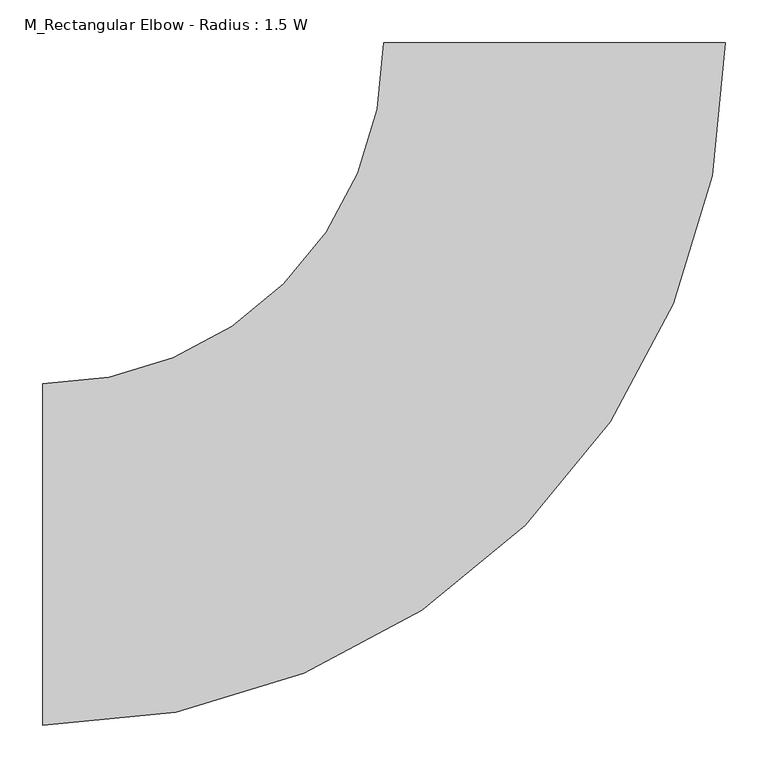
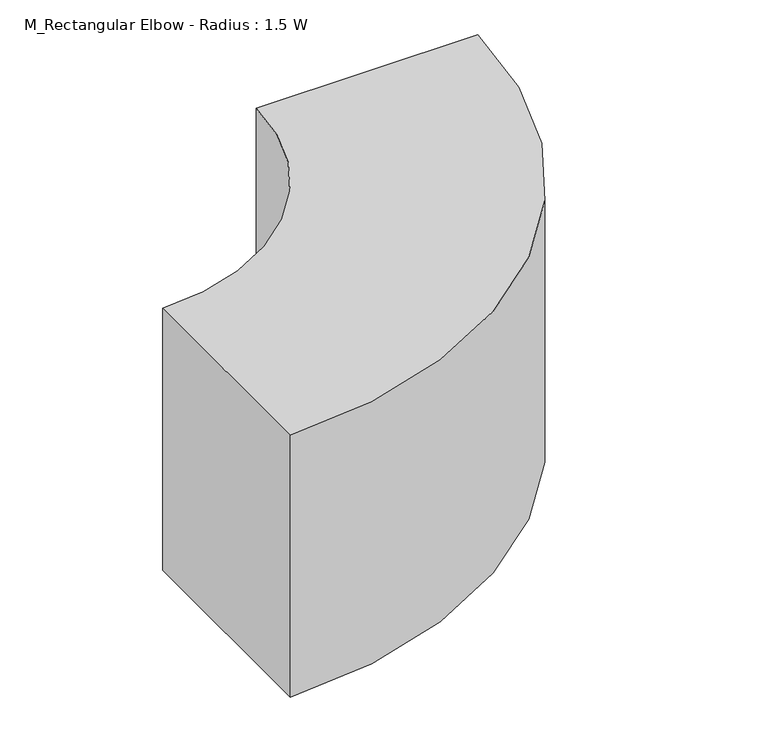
"""IFC4 building model written with IfcOpenShell, lengths in millimetres: duct fitting geometry, M_Rectangular Elbow - Radius : 1.5 W."""

import ifcopenshell
import ifcopenshell.guid

model = None  # the IFC model being written
_history = None  # IfcOwnerHistory: only IFC2X3 demands one
_inside = {}  # id of a spatial element -> (the spatial element, [elements in it])
_under = {}  # id of a project, library or spatial element -> (it, [spatial elements below it])
_declared = {}  # id of a project -> (the project, [libraries it declares])
_typed = {}  # id of a type object -> (the type object, [elements of that type])
_made_of = {}  # id of a material, layer set ... -> (it, [elements and type objects made of it])


def new_model(schema):
    """Start an empty IFC model of exactly this schema.

    Asked for "IFC4X3", IfcOpenShell would pick the latest addendum, in which some entities
    have other attributes; the version numbers below select the first issue.
    IFC2X3 requires an IfcOwnerHistory on every rooted entity: one is made here for all.
    """
    global model, _history
    if schema == "IFC4X3":
        model = ifcopenshell.file(schema_version=(4, 3, 0, 0))
    else:
        model = ifcopenshell.file(schema=schema)
    _inside.clear()
    _under.clear()
    _declared.clear()
    _typed.clear()
    _made_of.clear()
    _history = None
    if model.schema == "IFC2X3":
        org = make("IfcOrganization", Name="unknown")
        user = make(
            "IfcPersonAndOrganization",
            ThePerson=make("IfcPerson", FamilyName="unknown"),
            TheOrganization=org,
        )
        app = make(
            "IfcApplication",
            ApplicationDeveloper=org,
            Version="unknown",
            ApplicationFullName="unknown",
            ApplicationIdentifier="unknown",
        )
        _history = make(
            "IfcOwnerHistory",
            OwningUser=user,
            OwningApplication=app,
            ChangeAction="ADDED",
            CreationDate=0,
        )
    return model


def make(cls, **values):
    """One entity of the class cls with the attributes given. An attribute that is None is left unset."""
    return model.create_entity(
        cls, **{name: value for name, value in values.items() if value is not None}
    )


def rooted(cls, **values):
    """An entity with a GlobalId (a new one), such as an element, a storey or a relation."""
    return make(cls, GlobalId=ifcopenshell.guid.new(), OwnerHistory=_history, **values)


def si_unit(unit_type, name, prefix=None):
    """IfcSIUnit, for example si_unit("LENGTHUNIT", "METRE", prefix="MILLI")."""
    return make("IfcSIUnit", UnitType=unit_type, Prefix=prefix, Name=name)


def assignment(units):
    """IfcUnitAssignment: the units of a project."""
    return None if units is None else make("IfcUnitAssignment", Units=units)


def point(xyz):
    """IfcCartesianPoint."""
    return None if xyz is None else make("IfcCartesianPoint", Coordinates=xyz)


def direction(xyz):
    """IfcDirection."""
    return None if xyz is None else make("IfcDirection", DirectionRatios=xyz)


def frame(location, z_axis=None, x_axis=None):
    """IfcAxis2Placement3D, a coordinate frame: its origin and axes. An axis left out is left unset."""
    return make(
        "IfcAxis2Placement3D",
        Location=point(location),
        Axis=direction(z_axis),
        RefDirection=direction(x_axis),
    )


def frame_2d(location, x_axis=None):
    """IfcAxis2Placement2D, a coordinate frame in the plane: its origin and x axis."""
    return make(
        "IfcAxis2Placement2D", Location=point(location), RefDirection=direction(x_axis)
    )


def origin():
    """The frame at (0, 0, 0) with its axes left unset."""
    return frame((0.0, 0.0, 0.0))


def place(relative_to, where):
    """IfcLocalPlacement: puts the frame where relative to a parent placement (None: the world)."""
    return make(
        "IfcLocalPlacement", PlacementRelTo=relative_to, RelativePlacement=where
    )


def context(
    kind, dimensions, precision=None, world=None, true_north=None, identifier=None
):
    """IfcGeometricRepresentationContext, for example the 3D "Model" context."""
    return make(
        "IfcGeometricRepresentationContext",
        ContextIdentifier=identifier,
        ContextType=kind,
        CoordinateSpaceDimension=dimensions,
        Precision=precision,
        WorldCoordinateSystem=world,
        TrueNorth=true_north,
    )


def project(units=None, contexts=None):
    """IfcProject with its units and contexts."""
    return rooted(
        "IfcProject",
        Name="project",
        RepresentationContexts=contexts,
        UnitsInContext=assignment(units),
    )


def spatial(cls, under=None, at=None, **own):
    """A site, building, storey or space (cls), placed at a placement, below another one or the project."""
    s = rooted(cls, ObjectPlacement=at, **own)
    if under is not None:
        _under.setdefault(under.id(), (under, []))[1].append(s)
    return s


def polyline(points):
    """IfcPolyline through the points."""
    return make("IfcPolyline", Points=[point(p) for p in points])


def circle_curve(where, radius):
    """IfcCircle in the frame where."""
    return make("IfcCircle", Position=where, Radius=radius)


def trimmed(basis, trim1, trim2, sense, master):
    """IfcTrimmedCurve: the piece of a basis curve between two trims."""
    return make(
        "IfcTrimmedCurve",
        BasisCurve=basis,
        Trim1=trim1,
        Trim2=trim2,
        SenseAgreement=sense,
        MasterRepresentation=master,
    )


def segment(curve, same_sense, transition):
    """IfcCompositeCurveSegment."""
    return make(
        "IfcCompositeCurveSegment",
        Transition=transition,
        SameSense=same_sense,
        ParentCurve=curve,
    )


def composite_curve(segments, self_intersect=None):
    """IfcCompositeCurve: segments joined end to end."""
    return make("IfcCompositeCurve", Segments=segments, SelfIntersect=self_intersect)


def outline(outer, holes=None, kind="AREA"):
    """IfcArbitraryClosedProfileDef: a profile drawn as a closed curve; with holes, ...WithVoids."""
    if holes is None:
        return make("IfcArbitraryClosedProfileDef", ProfileType=kind, OuterCurve=outer)
    return make(
        "IfcArbitraryProfileDefWithVoids",
        ProfileType=kind,
        OuterCurve=outer,
        InnerCurves=holes,
    )


def extrude(swept, where, along, depth):
    """IfcExtrudedAreaSolid: the profile swept, set in the frame where, extruded along a direction by depth."""
    return make(
        "IfcExtrudedAreaSolid",
        SweptArea=swept,
        Position=where,
        ExtrudedDirection=direction(along),
        Depth=depth,
    )


def shape(context_of_items, identifier, shape_type, items):
    """IfcShapeRepresentation: the items that make up one representation, for example the "Body"."""
    return make(
        "IfcShapeRepresentation",
        ContextOfItems=context_of_items,
        RepresentationIdentifier=identifier,
        RepresentationType=shape_type,
        Items=items,
    )


def source(mapping_origin, context_of_items, identifier, shape_type, items):
    """IfcRepresentationMap: a shape defined once, which mapped items show again and again."""
    return make(
        "IfcRepresentationMap",
        MappingOrigin=mapping_origin,
        MappedRepresentation=shape(context_of_items, identifier, shape_type, items),
    )


def transform(
    local_origin,
    x_axis=None,
    y_axis=None,
    z_axis=None,
    scale=None,
    scale2=None,
    scale3=None,
    uniform=True,
):
    """IfcCartesianTransformationOperator3D, or its non-uniform kind. x_axis, y_axis, z_axis: its Axis1, 2, 3."""
    if uniform:
        return make(
            "IfcCartesianTransformationOperator3D",
            Axis1=direction(x_axis),
            Axis2=direction(y_axis),
            LocalOrigin=point(local_origin),
            Scale=scale,
            Axis3=direction(z_axis),
        )
    return make(
        "IfcCartesianTransformationOperator3DnonUniform",
        Axis1=direction(x_axis),
        Axis2=direction(y_axis),
        LocalOrigin=point(local_origin),
        Scale=scale,
        Axis3=direction(z_axis),
        Scale2=scale2,
        Scale3=scale3,
    )


def mapped(mapping_source, mapping_target):
    """IfcMappedItem: shows the shape of a source again, moved by a transform."""
    return make(
        "IfcMappedItem", MappingSource=mapping_source, MappingTarget=mapping_target
    )


def made_of(thing, what):
    """Note that an element or type object is made of a material, layer set ...; save() writes the relation."""
    if what is not None:
        _made_of.setdefault(what.id(), (what, []))[1].append(thing)
    return thing


def element(
    cls,
    number,
    at=None,
    inside=None,
    cuts=None,
    type_object=None,
    material=None,
    context=None,
    identifier="Body",
    shape_type=None,
    held_by="IfcProductDefinitionShape",
    body=None,
    shapes=None,
    **own,
):
    """One element of the class cls, such as IfcWall. Its Tag is "e" and its number.

    at: its placement. inside: the storey or other place that contains it. cuts: it is an
    opening in that element (IfcRelVoidsElement). A single representation is given by context,
    identifier, shape_type and body (its items); several are given by shapes. held_by: the class
    of the entity that holds the representations. save() writes the other relations.
    """
    e = rooted(cls, Tag="e%d" % number, ObjectPlacement=at, **own)
    if body is not None:
        shapes = [shape(context, identifier, shape_type, body)]
    if shapes is not None:
        e.Representation = make(held_by, Representations=shapes)
    if inside is not None:
        _inside.setdefault(inside.id(), (inside, []))[1].append(e)
    if cuts is not None:
        rooted(
            "IfcRelVoidsElement", RelatingBuildingElement=cuts, RelatedOpeningElement=e
        )
    if type_object is not None:
        _typed.setdefault(type_object.id(), (type_object, []))[1].append(e)
    return made_of(e, material)


def aggregate(whole, parts):
    """IfcRelAggregates: a whole, such as a stair, and the parts it consists of."""
    return rooted("IfcRelAggregates", RelatingObject=whole, RelatedObjects=parts)


def save(model, path):
    """Write the relations noted so far, then the file.

    IfcRelAggregates (storeys below a building ...), IfcRelContainedInSpatialStructure (elements
    in a storey), IfcRelDefinesByType, IfcRelAssociatesMaterial and IfcRelDeclares: one each for
    every whole, place, type object, material and project.
    """
    for whole, parts in _under.values():
        aggregate(whole, parts)
    for where, things in _inside.values():
        rooted(
            "IfcRelContainedInSpatialStructure",
            RelatedElements=things,
            RelatingStructure=where,
        )
    for kind, things in _typed.values():
        rooted("IfcRelDefinesByType", RelatedObjects=things, RelatingType=kind)
    for what, things in _made_of.values():
        rooted("IfcRelAssociatesMaterial", RelatedObjects=things, RelatingMaterial=what)
    for by, libraries in _declared.values():
        rooted("IfcRelDeclares", RelatingContext=by, RelatedDefinitions=libraries)
    model.write(path)


def m_rectangular_elbow_radius_1_5_w_b06fef9a(model_context):
    return source(origin(), model_context, "Body", "SweptSolid", [
        extrude(outline(composite_curve([segment(trimmed(circle_curve(frame_2d((-600.0, 600.0)), 800.0), [point((200.0, 600.0))], [point((-600.0, -200.0))], False, "CARTESIAN"), True, "CONTINUOUS"), segment(polyline([(-600.0, -200.0), (-600.0, 200.0)]), True, "CONTINUOUS"), segment(trimmed(circle_curve(frame_2d((-600.0, 600.0)), 400.0), [point((-600.0, 200.0))], [point((-200.0, 600.0))], True, "CARTESIAN"), True, "CONTINUOUS"), segment(polyline([(-200.0, 600.0), (200.0, 600.0)]), True, "CONTINUOUS")], self_intersect=False)), frame((0.0, 0.0, -250.0), z_axis=(0.0, 0.0, 1.0), x_axis=(1.0, 0.0, 0.0)), (0.0, 0.0, 1.0), 500.0),
        extrude(outline(composite_curve([segment(trimmed(circle_curve(frame_2d((-600.0, 600.0)), 800.0), [point((200.0, 600.0))], [point((-600.0, -200.0))], False, "CARTESIAN"), True, "CONTINUOUS"), segment(polyline([(-600.0, -200.0), (-600.0, 200.0)]), True, "CONTINUOUS"), segment(trimmed(circle_curve(frame_2d((-600.0, 600.0)), 400.0), [point((-600.0, 200.0))], [point((-200.0, 600.0))], True, "CARTESIAN"), True, "CONTINUOUS"), segment(polyline([(-200.0, 600.0), (200.0, 600.0)]), True, "CONTINUOUS")], self_intersect=False)), frame((0.0, 0.0, -250.0), z_axis=(0.0, 0.0, 1.0), x_axis=(1.0, 0.0, 0.0)), (0.0, 0.0, 1.0), 500.0),
        extrude(outline(composite_curve([segment(trimmed(circle_curve(frame_2d((-600.0, 600.0)), 800.0), [point((200.0, 600.0))], [point((-600.0, -200.0))], False, "CARTESIAN"), True, "CONTINUOUS"), segment(polyline([(-600.0, -200.0), (-600.0, 200.0)]), True, "CONTINUOUS"), segment(trimmed(circle_curve(frame_2d((-600.0, 600.0)), 400.0), [point((-600.0, 200.0))], [point((-200.0, 600.0))], True, "CARTESIAN"), True, "CONTINUOUS"), segment(polyline([(-200.0, 600.0), (200.0, 600.0)]), True, "CONTINUOUS")], self_intersect=False)), frame((0.0, 0.0, -250.0), z_axis=(0.0, 0.0, 1.0), x_axis=(1.0, 0.0, 0.0)), (0.0, 0.0, 1.0), 500.0),
    ])


if __name__ == "__main__":
    model = new_model("IFC4")
    model_context = context("Model", 3, world=origin())
    ifc_project = project(units=[si_unit("LENGTHUNIT", "METRE", prefix="MILLI")], contexts=[model_context])
    site = spatial("IfcSite", under=ifc_project)
    building = spatial("IfcBuilding", under=site)
    placement = place(None, origin())
    m_rectangular_elbow_radius_1_5_w_shape = m_rectangular_elbow_radius_1_5_w_b06fef9a(model_context)
    element("IfcDuctFitting", 1, ObjectType="M_Rectangular Elbow - Radius : 1.5 W", at=placement, inside=building, context=model_context, shape_type="MappedRepresentation", body=[
        mapped(m_rectangular_elbow_radius_1_5_w_shape, transform((0.0, 0.0, 0.0), x_axis=(1.0, 0.0, 0.0), y_axis=(0.0, 1.0, 0.0), z_axis=(0.0, 0.0, 1.0))),
    ])
    save(model, "model.ifc")
